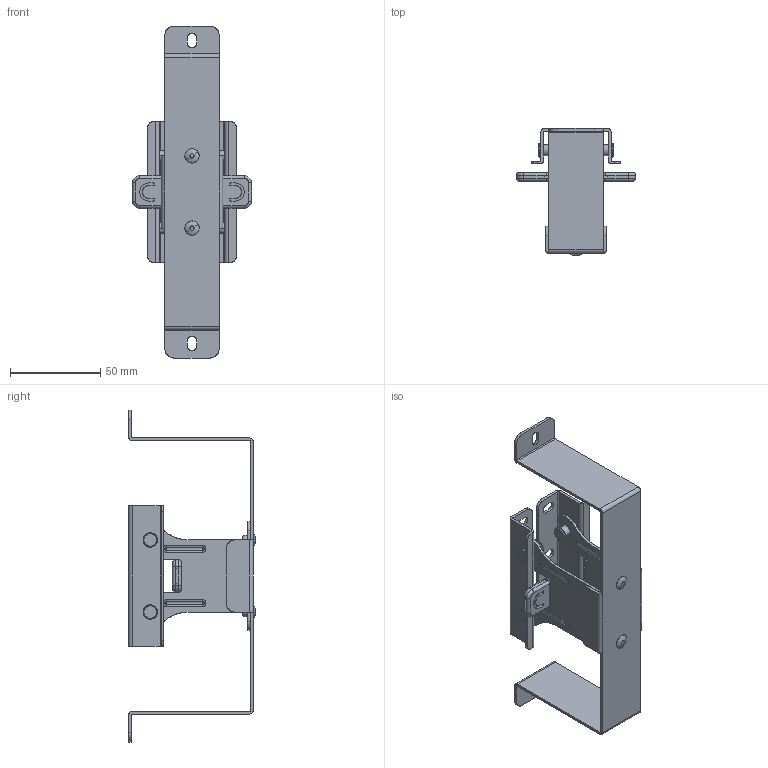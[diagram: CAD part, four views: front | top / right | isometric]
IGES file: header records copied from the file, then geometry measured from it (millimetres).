
Start section: SolidWorks IGES file using analytic representation for surfaces
Bounding box: 66 x 70.3 x 184 mm (x, y, z)
Surface area: 53030.3 mm2 (no closed solid volume)
Topology: 0 solids, 0 shells, 1324 faces, 14068 edges, 14060 vertices
Faces by surface type: bspline 710, revolution 614
